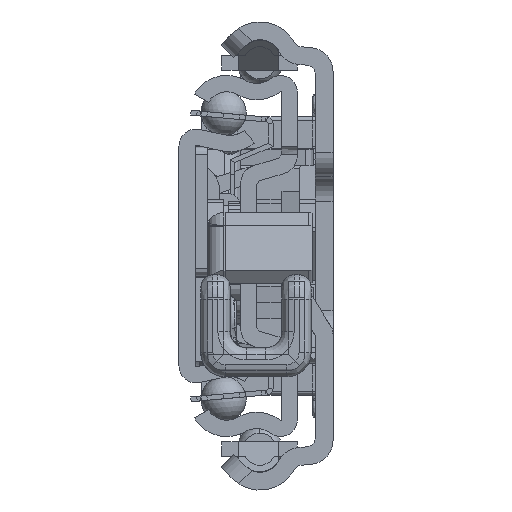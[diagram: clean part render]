
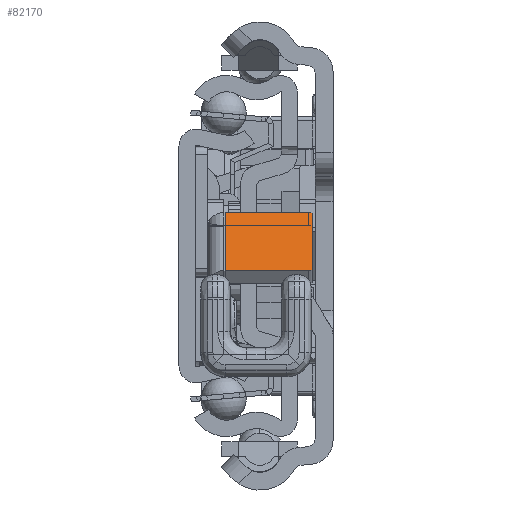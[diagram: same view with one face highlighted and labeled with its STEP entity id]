
A CAD part, left-side view. The second image highlights one B-rep face of the part: STEP entity #82170.
In plain terms, the highlighted planar face has unit normal (-0.597, 0, 0.802) as drawn and (-0.597, -0.802, 0) by its records, which use the part's own axes.
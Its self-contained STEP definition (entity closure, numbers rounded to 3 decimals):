
#81558=DIRECTION('',(0.802,-0.597,0.));
#81559=VECTOR('',#81558,12.);
#81560=CARTESIAN_POINT('',(31.957,-10.314,-0.2));
#81561=LINE('',#81560,#81559);
#81586=DIRECTION('',(0.,0.,1.));
#81587=VECTOR('',#81586,10.3);
#81588=CARTESIAN_POINT('',(41.586,-17.476,-10.5));
#81589=LINE('',#81588,#81587);
#81590=CARTESIAN_POINT('',(41.184,-17.178,-10.5));
#81591=DIRECTION('',(-0.597,-0.802,0.));
#81592=DIRECTION('',(0.,0.,-1.));
#81593=AXIS2_PLACEMENT_3D('',#81590,#81591,#81592);
#81595=DIRECTION('',(0.802,-0.597,0.));
#81596=VECTOR('',#81595,11.);
#81597=CARTESIAN_POINT('',(32.358,-10.613,-11.));
#81598=LINE('',#81597,#81596);
#81599=CARTESIAN_POINT('',(32.358,-10.613,-10.5));
#81600=DIRECTION('',(-0.597,-0.802,0.));
#81601=DIRECTION('',(-0.802,0.597,0.));
#81602=AXIS2_PLACEMENT_3D('',#81599,#81600,#81601);
#81604=DIRECTION('',(0.,0.,-1.));
#81605=VECTOR('',#81604,10.3);
#81606=CARTESIAN_POINT('',(31.957,-10.314,-0.2));
#81607=LINE('',#81606,#81605);
#81824=CARTESIAN_POINT('',(31.957,-10.314,-0.2));
#81825=CARTESIAN_POINT('',(41.586,-17.476,-0.2));
#81826=VERTEX_POINT('',#81824);
#81827=VERTEX_POINT('',#81825);
#81856=CARTESIAN_POINT('',(41.586,-17.476,-10.5));
#81857=VERTEX_POINT('',#81856);
#81858=CARTESIAN_POINT('',(32.358,-10.613,-11.));
#81859=CARTESIAN_POINT('',(41.184,-17.178,-11.));
#81860=VERTEX_POINT('',#81858);
#81861=VERTEX_POINT('',#81859);
#81862=CARTESIAN_POINT('',(31.957,-10.314,-10.5));
#81863=VERTEX_POINT('',#81862);
#82152=CARTESIAN_POINT('',(34.726,-12.374,2.));
#82153=DIRECTION('',(0.597,0.802,0.));
#82154=DIRECTION('',(0.802,-0.597,0.));
#82155=AXIS2_PLACEMENT_3D('',#82152,#82153,#82154);
#82156=PLANE('',#82155);
#82158=ORIENTED_EDGE('',*,*,#82157,.F.);
#82160=ORIENTED_EDGE('',*,*,#82159,.F.);
#82162=ORIENTED_EDGE('',*,*,#82161,.F.);
#82164=ORIENTED_EDGE('',*,*,#82163,.F.);
#82166=ORIENTED_EDGE('',*,*,#82165,.F.);
#82167=ORIENTED_EDGE('',*,*,#82139,.T.);
#82168=EDGE_LOOP('',(#82158,#82160,#82162,#82164,#82166,#82167));
#82169=FACE_OUTER_BOUND('',#82168,.F.);
#81594=CIRCLE('',#81593,0.5);
#81603=CIRCLE('',#81602,0.5);
#82139=EDGE_CURVE('',#81826,#81827,#81561,.T.);
#82157=EDGE_CURVE('',#81857,#81827,#81589,.T.);
#82159=EDGE_CURVE('',#81861,#81857,#81594,.T.);
#82161=EDGE_CURVE('',#81860,#81861,#81598,.T.);
#82163=EDGE_CURVE('',#81863,#81860,#81603,.T.);
#82165=EDGE_CURVE('',#81826,#81863,#81607,.T.);
#82170=ADVANCED_FACE('',(#82169),#82156,.F.);
